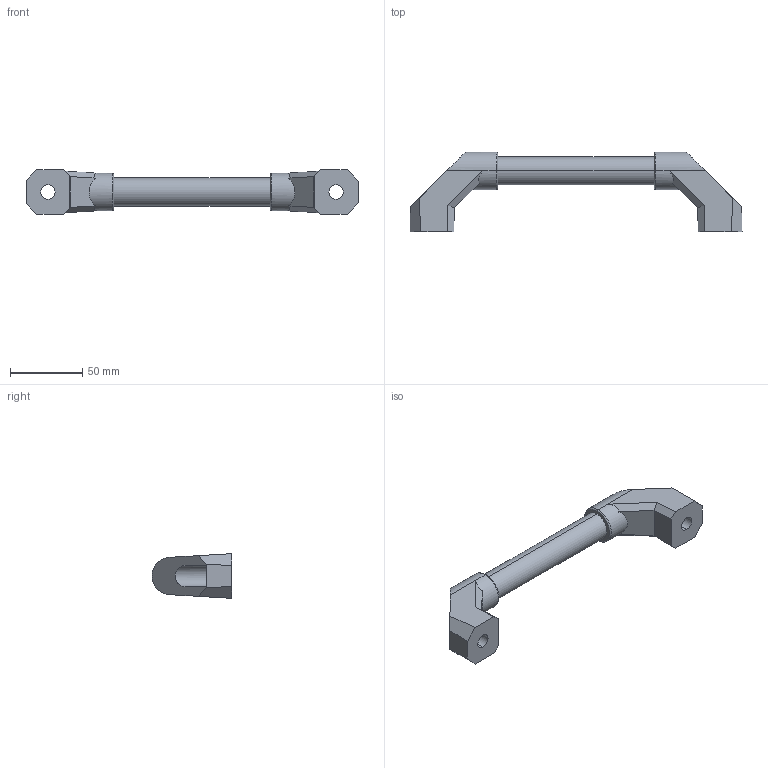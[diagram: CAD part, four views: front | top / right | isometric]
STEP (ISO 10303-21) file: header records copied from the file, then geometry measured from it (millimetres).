
FILE_DESCRIPTION (( 'STEP AP214' ), '1' );
FILE_NAME ('4.441.001.STEP', '2012-01-18T11:02:43', ( '£ukasz Cieæka' ), ( '' ), 'SwSTEP 2.0', 'SolidWorks 2010', '' );
FILE_SCHEMA (( 'AUTOMOTIVE_DESIGN' ));
Length unit declared in the file: millimetre
Products named in the file (1): 4.441.001
Bounding box: 230.4 x 55.4 x 31 mm (x, y, z)
Volume: 114865.6 mm3; surface area: 25636.5 mm2
Topology: 3 solids, 3 shells, 70 faces, 174 edges, 112 vertices
Faces by surface type: plane 54, cylinder 12, torus 4
Entity records: 2471 total; most frequent: CARTESIAN_POINT 387, ORIENTED_EDGE 348, DIRECTION 332, EDGE_CURVE 174, LINE 138, VECTOR 138, VERTEX_POINT 112, AXIS2_PLACEMENT_3D 97
